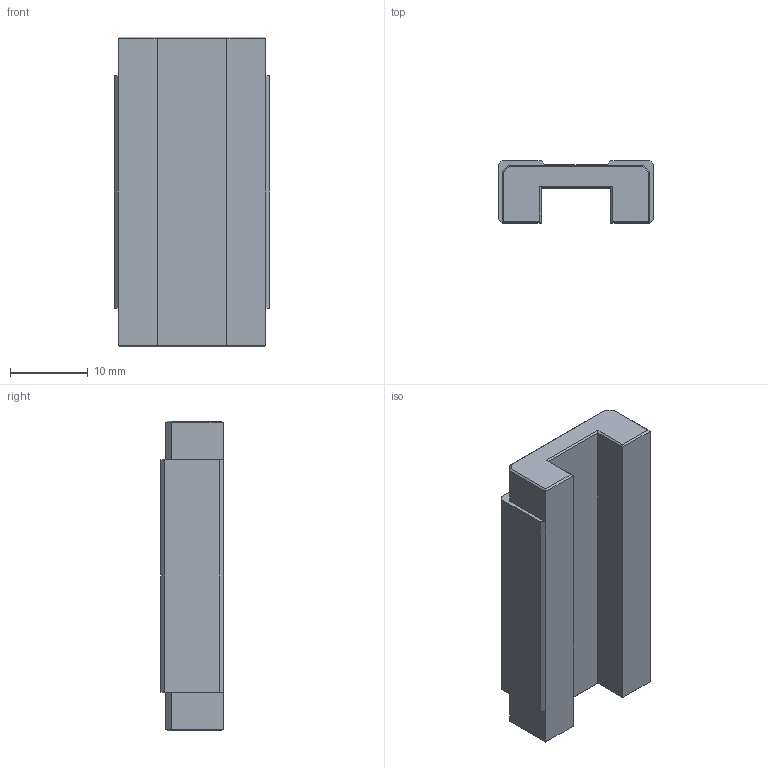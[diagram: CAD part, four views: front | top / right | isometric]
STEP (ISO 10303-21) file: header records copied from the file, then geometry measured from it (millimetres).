
FILE_DESCRIPTION(/* description */ (''),/* implementation_level */ '2;1');
FILE_NAME(/* name */ 'C:\Users\daviddillkoetter\ownCloud\Kamp und Kötter\Artikel\Miniaturfuehrungen_KPM\Step\KPMW-09C-BLZ0.stp',/* time_stamp */ '2020-12-07T12:24:19+01:00',/* author */ ('daviddillkoetter'),/* organization */ (''),/* preprocessor_version */ 'ST-DEVELOPER v18.1',/* originating_system */ 'Autodesk Inventor 2021',/* authorisation */ '');
FILE_SCHEMA (('AUTOMOTIVE_DESIGN { 1 0 10303 214 3 1 1 }'));
Length unit declared in the file: millimetre
Products named in the file (1): KPMW-09C-BLZ0
Bounding box: 20 x 8 x 39.9 mm (x, y, z)
Volume: 4322.9 mm3; surface area: 2898.9 mm2
Topology: 1 solids, 1 shells, 62 faces, 152 edges, 92 vertices
Faces by surface type: plane 50, cone 8, cylinder 4
Full cylindrical faces by diameter (mm): 2.459 x4
Entity records: 1819 total; most frequent: CARTESIAN_POINT 303, ORIENTED_EDGE 296, DIRECTION 290, EDGE_CURVE 148, LINE 132, VECTOR 132, VERTEX_POINT 92, AXIS2_PLACEMENT_3D 79
